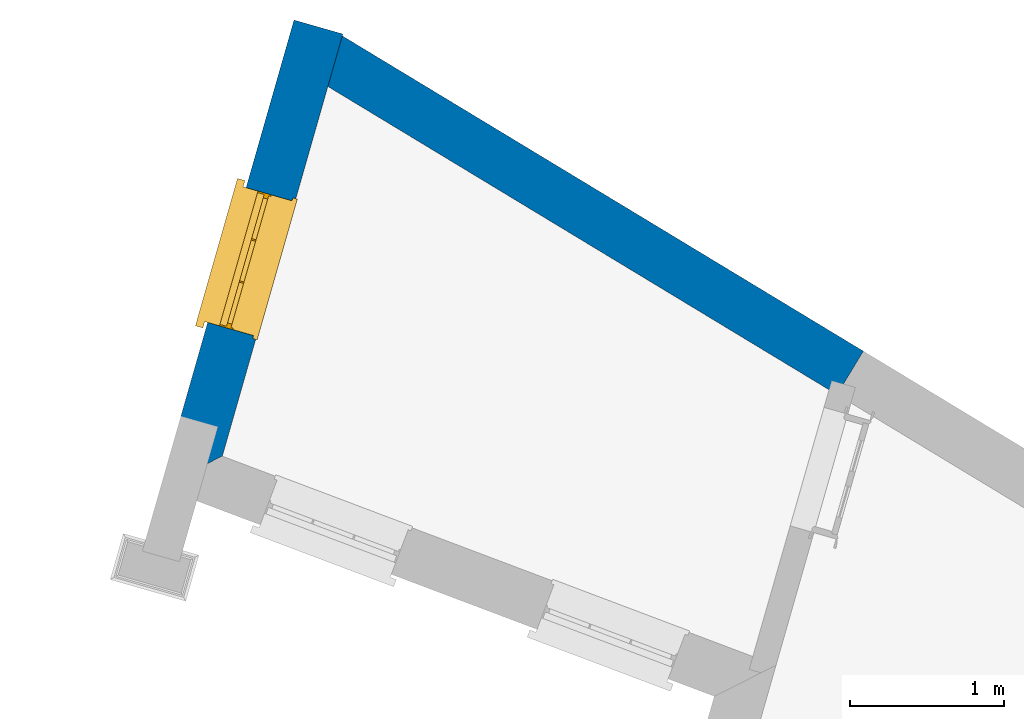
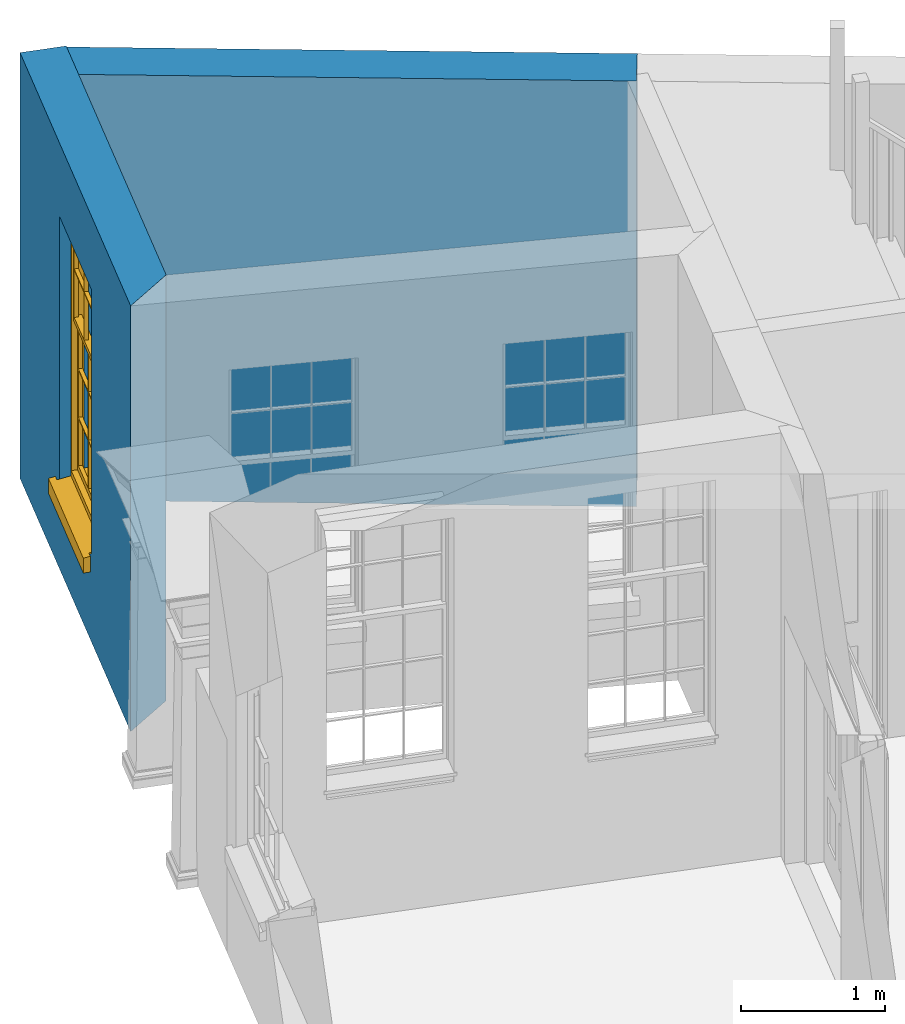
# One storey, part 6 of 6: 2 walls, 1 window, 1 opening.
"""IFC4 building model written with IfcOpenShell, lengths in metres."""

from ifc_helpers import new_model, si_unit, frame, origin, origin_with_axes, place, context, subcontext, project, spatial, polyline, outline, extrude, faceted_brep, source, transform, mapped, material, layer, layer_set, layer_usage, type_object, type_shapes, element, fill, save


model = new_model("IFC4")

# Units and contexts
model_context = context("Model", 3, world=origin_with_axes())
body_context = subcontext(model_context, "Body", "Model", "MODEL_VIEW")
ifc_project = project(units=[si_unit("PLANEANGLEUNIT", "RADIAN"), si_unit("MASSUNIT", "GRAM", prefix="KILO"), si_unit("FORCEUNIT", "NEWTON", prefix="KILO"), si_unit("LENGTHUNIT", "METRE"), si_unit("AREAUNIT", "SQUARE_METRE"), si_unit("VOLUMEUNIT", "CUBIC_METRE")], contexts=[model_context, model_context])

# Sites, building, storey
site_1_placement = place(None, origin_with_axes())
site_1 = spatial("IfcSite", under=ifc_project, at=site_1_placement, Name="Tamar")
site_2_placement = place(site_1_placement, origin_with_axes())
site_2 = spatial("IfcSite", under=site_1, at=site_2_placement, Name="Site plot-19", CompositionType="ELEMENT")
building_placement = place(None, origin_with_axes())
building = spatial("IfcBuilding", under=site_2, at=building_placement, Name="Building plot-19", CompositionType="ELEMENT")
storey_placement = place(None, frame((0.0, 0.0, 26.8), z_axis=(0.0, 0.0, 1.0), x_axis=(1.0, 0.0, 0.0)))
storey = spatial("IfcBuildingStorey", under=building, at=storey_placement, Name="plot-19 0", CompositionType="ELEMENT", Elevation=26.8)

# Wall, opening, window
ifc_material_1 = material(Name="Masonry")
ifc_layer_1 = layer(ifc_material_1, 0.33, ventilated=False)
ifc_layer_set_1 = layer_set([ifc_layer_1], Name="exterior_0.08_0.25")
ifc_layer_usage_1 = layer_usage(ifc_layer_set_1, "AXIS2", "POSITIVE", -0.25)
wall_type_1 = type_object("IfcWallType", Name="exterior_0.08_0.25", PredefinedType="SOLIDWALL", material=ifc_layer_set_1)
wall_1_placement = place(storey_placement, frame((277.859330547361, 304.293593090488, 0.0), z_axis=(0.0, 0.0, 1.0), x_axis=(-0.274568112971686, -0.961567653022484, 0.0)))
wall_1 = element("IfcWall", 1, at=wall_1_placement, inside=storey, type_object=wall_type_1, material=ifc_layer_usage_1, Name="exterior", context=body_context, shape_type="SweptSolid", body=[
    extrude(outline(polyline([(-0.250000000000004, 0.0800000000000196), (-0.250000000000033, -0.249999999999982), (2.90406543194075, -0.250000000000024), (2.60035790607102, 0.080000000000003), (-0.250000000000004, 0.0800000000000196)])), origin_with_axes(), (0.0, 0.0, 1.0), 3.6),
])
opening_placement = place(wall_1_placement, frame((0.8819919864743, 0.0, 0.75)))
opening = element("IfcOpeningElement", 2, at=opening_placement, cuts=wall_1, Name="My Opening", ObjectType="Opening", context=body_context, shape_type="SweptSolid", body=[
    extrude(outline(polyline([(0.0, -0.269999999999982), (0.91000000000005, -0.269999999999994), (0.910000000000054, 1.09999999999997), (3.66373598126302e-15, 1.09999999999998), (0.0, -0.269999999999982)])), origin_with_axes(), (0.0, 0.0, 1.0), 2.23),
])
window_type = type_object("IfcWindowType", Name="sash_big_taller", PartitioningType="DOUBLE_PANEL_HORIZONTAL", PredefinedType="NOTDEFINED")
shared_shape = source(origin(), body_context, "Body", "Brep", [
    faceted_brep([(0.033125, 0.145, 1.385209), (0.01, 0.145, 1.385209), (0.033125, 0.145, 1.786042), (0.876875, 0.145, 1.385209), (0.876875, 0.145, 1.786042), (0.9, 0.145, 1.385209), (0.876875, 0.145, 1.796042), (0.876875, 0.145, 2.196875), (0.9, 0.145, 2.22), (0.033125, 0.145, 2.196875), (0.033125, 0.145, 1.796042), (0.01, 0.145, 2.22), (0.876875, 0.115, 1.786042), (0.876875, 0.115, 1.385209), (0.9, 0.115, 1.347084), (0.033125, 0.115, 2.196875), (0.01, 0.115, 2.22), (0.033125, 0.115, 1.796042), (0.01, 0.115, 1.347084), (0.033125, 0.115, 1.385209), (0.033125, 0.115, 1.786042), (0.876875, 0.115, 2.196875), (0.876875, 0.115, 1.796042), (0.9, 0.115, 2.22), (0.033125, 0.145, 1.347084), (0.01, 0.145, 1.347084), (0.033125, 0.145, 0.94625), (0.876875, 0.145, 1.347084), (0.876875, 0.145, 0.94625), (0.9, 0.145, 1.347084), (0.876875, 0.145, 0.52625), (0.876875, 0.145, 0.125417), (0.9, 0.145, 0.077167), (0.033125, 0.145, 0.125417), (0.033125, 0.145, 0.52625), (0.01, 0.145, 0.077167), (-0.0425, 0.0, 0.01), (-0.0425, -0.05, 0.001667), (0.0, 0.0, 0.01), (0.9525, 0.0, 0.01), (0.91, 0.0, 0.01), (0.9525, -0.05, 0.001667), (-0.02, 0.33, 0.077167), (0.0, 0.33, 0.077167), (-0.02, 0.36, 0.077167), (0.0, 0.19, 0.077167), (0.01, 0.19, 0.077167), (0.91, 0.19, 0.077167), (0.91, 0.33, 0.077167), (0.9, 0.19, 0.077167), (0.93, 0.33, 0.077167), (0.93, 0.36, 0.077167), (0.01, 0.175, 1.385209), (0.9, 0.175, 1.385209), (0.876875, 0.175, 0.125417), (0.876875, 0.175, 0.52625), (0.9, 0.175, 0.077167), (0.876875, 0.175, 0.94625), (0.876875, 0.175, 1.347084), (0.033125, 0.175, 0.125417), (0.01, 0.175, 0.077167), (0.033125, 0.175, 0.52625), (0.033125, 0.175, 1.347084), (0.033125, 0.175, 0.94625), (-0.02, 0.33, 0.052167), (-0.02, 0.36, 0.052167), (0.93, 0.36, 0.052167), (0.93, 0.33, 0.052167), (0.91, 0.33, 0.052167), (0.0, 0.33, 0.052167), (0.91, 0.1, 0.026667), (0.0, 0.1, 0.026667), (-0.0425, -0.05, -0.123333), (0.9525, -0.05, -0.123333), (-0.0425, 0.0, -0.123333), (0.9525, 0.0, -0.123333), (0.01, 0.19, 2.22), (0.9, 0.19, 2.22), (0.0, 0.19, 2.23), (0.91, 0.19, 2.23), (0.01, 0.1, 0.077167), (0.9, 0.1, 0.077167), (0.592292, 0.145, 0.125417), (0.592292, 0.175, 0.125417), (0.317708, 0.175, 0.125417), (0.317708, 0.145, 0.125417), (0.592292, 0.145, 0.53625), (0.317708, 0.145, 0.53625), (0.317708, 0.145, 0.52625), (0.592292, 0.145, 0.52625), (0.592292, 0.175, 0.53625), (0.317708, 0.175, 0.53625), (0.592292, 0.115, 1.796042), (0.592292, 0.145, 1.796042), (0.317708, 0.145, 1.796042), (0.317708, 0.115, 1.796042), (0.317708, 0.115, 1.786042), (0.592292, 0.115, 1.786042), (0.317708, 0.145, 1.786042), (0.592292, 0.145, 1.786042), (0.602292, 0.115, 1.786042), (0.592292, 0.115, 1.385209), (0.602292, 0.115, 1.385209), (0.602292, 0.145, 1.385209), (0.592292, 0.145, 1.385209), (0.602292, 0.145, 1.786042), (0.876875, 0.145, 0.53625), (0.876875, 0.175, 0.53625), (0.602292, 0.175, 0.53625), (0.602292, 0.145, 0.53625), (0.317708, 0.175, 0.52625), (0.307708, 0.175, 0.125417), (0.307708, 0.175, 0.52625), (0.602292, 0.175, 0.52625), (0.602292, 0.175, 0.125417), (0.592292, 0.175, 0.52625), (0.307708, 0.175, 0.53625), (0.033125, 0.175, 0.53625), (0.317708, 0.175, 1.347084), (0.317708, 0.175, 0.94625), (0.307708, 0.175, 0.94625), (0.307708, 0.175, 1.347084), (0.602292, 0.175, 1.347084), (0.602292, 0.175, 0.94625), (0.592292, 0.175, 0.94625), (0.592292, 0.175, 1.347084), (0.307708, 0.145, 0.52625), (0.307708, 0.145, 0.125417), (0.307708, 0.145, 0.53625), (0.033125, 0.145, 0.53625), (0.307708, 0.145, 1.347084), (0.307708, 0.145, 0.94625), (0.592292, 0.145, 1.347084), (0.592292, 0.145, 0.94625), (0.317708, 0.145, 0.94625), (0.317708, 0.145, 1.347084), (0.602292, 0.145, 0.94625), (0.602292, 0.145, 1.347084), (0.602292, 0.145, 0.52625), (0.602292, 0.145, 0.125417), (0.307708, 0.115, 1.796042), (0.307708, 0.115, 1.786042), (0.307708, 0.115, 1.385209), (0.317708, 0.115, 1.385209), (0.317708, 0.115, 2.196875), (0.307708, 0.115, 2.196875), (0.602292, 0.115, 2.196875), (0.592292, 0.115, 2.196875), (0.602292, 0.115, 1.796042), (0.602292, 0.145, 1.796042), (0.307708, 0.145, 1.796042), (0.307708, 0.145, 2.196875), (0.317708, 0.145, 2.196875), (0.592292, 0.145, 2.196875), (0.602292, 0.145, 2.196875), (0.307708, 0.145, 1.786042), (0.317708, 0.145, 1.385209), (0.307708, 0.145, 1.385209), (0.876875, 0.175, 0.93625), (0.033125, 0.175, 0.93625), (0.033125, 0.145, 0.93625), (0.876875, 0.145, 0.93625), (0.91, 0.1, 2.23), (0.9, 0.1, 2.22), (0.01, 0.1, 2.22), (0.0, 0.1, 2.23), (0.91, 0.0, 0.0), (0.0, 0.0, 0.0), (0.91, 0.33, 0.0), (0.0, 0.33, 0.0), (0.317708, 0.145, 0.93625), (0.592292, 0.145, 0.93625), (0.317708, 0.175, 0.93625), (0.307708, 0.175, 0.93625), (0.602292, 0.175, 0.93625), (0.592292, 0.175, 0.93625), (0.307708, 0.145, 0.93625), (0.602292, 0.145, 0.93625)], [[[0, 1, 2]], [[3, 4, 5]], [[6, 7, 8]], [[9, 10, 11]], [[12, 13, 14]], [[15, 16, 17]], [[18, 19, 20]], [[21, 22, 23]], [[24, 25, 26]], [[27, 28, 29]], [[30, 31, 32]], [[33, 34, 35]], [[14, 27, 29]], [[25, 24, 18]], [[36, 37, 38]], [[39, 40, 41]], [[42, 43, 44]], [[45, 46, 43]], [[47, 48, 49]], [[50, 51, 48]], [[1, 0, 52]], [[5, 53, 3]], [[54, 55, 56]], [[57, 58, 53]], [[59, 60, 61]], [[62, 63, 52]], [[48, 43, 46, 49]], [[51, 44, 43, 48]], [[64, 42, 44, 65]], [[65, 44, 51, 66]], [[66, 51, 50, 67]], [[65, 66, 68, 69]], [[60, 56, 49, 46]], [[70, 71, 38, 40]], [[37, 41, 40, 38]], [[37, 72, 73, 41]], [[74, 75, 73, 72]], [[8, 11, 76, 77]], [[76, 78, 79, 77]], [[32, 35, 80, 81]], [[81, 80, 71, 70]], [[82, 83, 84, 85]], [[86, 87, 88, 89]], [[86, 90, 91, 87]], [[92, 93, 94, 95]], [[92, 95, 96, 97]], [[96, 98, 99, 97]], [[100, 97, 101, 102]], [[103, 104, 99, 105]], [[97, 99, 104, 101]], [[102, 103, 105, 100]], [[106, 107, 108, 109]], [[110, 84, 111, 112]], [[113, 114, 83, 115]], [[116, 112, 61, 117]], [[90, 115, 110, 91]], [[118, 119, 120, 121]], [[122, 123, 124, 125]], [[113, 108, 107, 55]], [[126, 112, 111, 127]], [[34, 61, 112, 126]], [[89, 115, 83, 82]], [[88, 110, 115, 89]], [[85, 84, 110, 88]], [[128, 116, 117, 129]], [[130, 121, 120, 131]], [[132, 125, 124, 133]], [[134, 119, 118, 135]], [[136, 123, 122, 137]], [[138, 113, 55, 30]], [[139, 114, 113, 138]], [[138, 30, 106, 109]], [[88, 126, 127, 85]], [[138, 89, 82, 139]], [[137, 132, 133, 136]], [[128, 129, 34, 126]], [[135, 130, 131, 134]], [[140, 17, 20, 141]], [[96, 141, 142, 143]], [[144, 145, 140, 95]], [[146, 147, 92, 148]], [[100, 12, 22, 148]], [[149, 6, 4, 105]], [[94, 150, 151, 152]], [[149, 93, 153, 154]], [[99, 98, 94, 93]], [[155, 2, 10, 150]], [[156, 157, 155, 98]], [[141, 155, 157, 142]], [[20, 2, 155, 141]], [[143, 156, 98, 96]], [[140, 150, 10, 17]], [[145, 151, 150, 140]], [[147, 153, 93, 92]], [[95, 94, 152, 144]], [[22, 6, 149, 148]], [[148, 149, 154, 146]], [[100, 105, 4, 12]], [[109, 86, 89, 138]], [[108, 113, 115, 90]], [[91, 110, 112, 116]], [[87, 128, 126, 88]], [[97, 100, 148, 92]], [[141, 96, 95, 140]], [[98, 155, 150, 94]], [[105, 99, 93, 149]], [[143, 101, 104, 156]], [[135, 118, 125, 132]], [[144, 152, 153, 147]], [[127, 111, 59, 33]], [[15, 9, 151, 145]], [[146, 154, 7, 21]], [[31, 54, 114, 139]], [[36, 74, 72, 37]], [[39, 41, 73, 75]], [[18, 14, 101, 143]], [[23, 16, 144, 147]], [[83, 56, 60, 84]], [[52, 53, 125, 118]], [[53, 52, 156, 104]], [[11, 8, 153, 152]], [[14, 18, 135, 132]], [[2, 1, 11, 10]], [[8, 5, 4, 6]], [[57, 53, 56, 158]], [[60, 52, 63, 159]], [[26, 25, 35, 160]], [[32, 29, 28, 161]], [[14, 23, 22, 12]], [[18, 20, 17, 16]], [[19, 0, 2, 20]], [[17, 10, 9, 15]], [[12, 4, 3, 13]], [[21, 7, 6, 22]], [[27, 58, 57, 28]], [[30, 55, 54, 31]], [[33, 59, 61, 34]], [[26, 63, 62, 24]], [[5, 8, 77, 53]], [[76, 11, 1, 52]], [[46, 45, 78, 76]], [[49, 77, 79, 47]], [[70, 162, 163, 81]], [[71, 80, 164, 165]], [[19, 142, 157, 0]], [[102, 13, 3, 103]], [[121, 130, 24, 62]], [[29, 32, 81, 14]], [[80, 35, 25, 18]], [[60, 46, 76, 52]], [[77, 49, 56, 53]], [[23, 14, 81, 163]], [[16, 164, 80, 18]], [[35, 85, 127]], [[127, 33, 35]], [[139, 82, 32]], [[32, 31, 139]], [[32, 82, 85, 35]], [[102, 101, 14]], [[14, 13, 102]], [[18, 143, 142]], [[142, 19, 18]], [[146, 21, 23]], [[23, 147, 146]], [[16, 15, 145]], [[145, 144, 16]], [[11, 152, 151]], [[151, 9, 11]], [[154, 153, 8]], [[8, 7, 154]], [[23, 163, 164, 16]], [[162, 165, 164, 163]], [[52, 118, 121]], [[121, 62, 52]], [[125, 53, 122]], [[58, 122, 53]], [[27, 137, 122, 58]], [[56, 83, 114]], [[114, 54, 56]], [[111, 84, 60]], [[60, 59, 111]], [[137, 27, 14]], [[14, 132, 137]], [[130, 135, 18]], [[18, 24, 130]], [[157, 156, 52]], [[52, 0, 157]], [[103, 3, 53]], [[53, 104, 103]], [[79, 78, 165, 162]], [[78, 45, 71, 165]], [[162, 70, 47, 79]], [[166, 75, 74, 167]], [[68, 66, 67]], [[48, 68, 67, 50]], [[69, 64, 65]], [[42, 64, 69, 43]], [[69, 68, 168, 169]], [[70, 68, 48, 47]], [[166, 168, 68, 70]], [[43, 69, 71, 45]], [[69, 169, 167, 71]], [[168, 166, 167, 169]], [[38, 167, 74, 36]], [[71, 167, 38]], [[39, 75, 166, 40]], [[40, 166, 70]], [[133, 134, 170, 171]], [[133, 124, 119, 134]], [[28, 57, 123, 136]], [[172, 91, 116, 173]], [[174, 108, 90, 175]], [[120, 173, 159, 63]], [[124, 175, 172, 119]], [[174, 123, 57, 158]], [[176, 173, 116, 128]], [[160, 159, 173, 176]], [[171, 175, 90, 86]], [[170, 172, 175, 171]], [[87, 91, 172, 170]], [[131, 120, 63, 26]], [[177, 174, 158, 161]], [[109, 108, 174, 177]], [[177, 161, 28, 136]], [[170, 176, 128, 87]], [[177, 171, 86, 109]], [[131, 26, 160, 176]], [[136, 133, 171, 177]], [[123, 174, 175, 124]], [[119, 172, 173, 120]], [[134, 131, 176, 170]], [[129, 117, 159, 160]], [[161, 158, 107, 106]], [[35, 34, 129]], [[35, 129, 160]], [[32, 106, 30]], [[32, 161, 106]], [[56, 55, 107]], [[56, 107, 158]], [[60, 117, 61]], [[60, 159, 117]]]),
])
type_shapes(window_type, [shared_shape])
window_placement = place(storey_placement, frame((277.357540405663, 303.519631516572, 0.75), z_axis=(0.0, 0.0, 1.0), x_axis=(-0.24985698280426, -0.875026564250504, 0.0)))
window = element("IfcWindow", 3, at=window_placement, inside=storey, type_object=window_type, Name="toilet street window", OverallHeight=2.23, OverallWidth=0.91, context=body_context, shape_type="MappedRepresentation", body=[
    mapped(shared_shape, transform((0.0, 0.0, 0.0), scale=1.0)),
])
fill(opening, window)

# Wall
ifc_material_2 = material(Name="Masonry")
ifc_layer_2 = layer(ifc_material_2, 0.33, ventilated=False)
ifc_layer_set_2 = layer_set([ifc_layer_2], Name="party_0.08_0.25")
ifc_layer_usage_2 = layer_usage(ifc_layer_set_2, "AXIS2", "POSITIVE", -0.25)
wall_type_2 = type_object("IfcWallType", Name="party_0.08_0.25", PredefinedType="SOLIDWALL", material=ifc_layer_set_2)
wall_2_placement = place(storey_placement, frame((281.254501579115, 302.239224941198, 0.0), z_axis=(0.0, 0.0, 1.0), x_axis=(-0.855567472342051, 0.517691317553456, 0.0)))
element("IfcWall", 4, at=wall_2_placement, inside=storey, type_object=wall_type_2, material=ifc_layer_usage_2, Name="party", context=body_context, shape_type="SweptSolid", body=[
    extrude(outline(polyline([(-5.71497043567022e-15, 0.0799999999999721), (-9.92118798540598e-15, -0.250000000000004), (3.96832645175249, -0.250000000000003), (3.9683264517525, 0.0799999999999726), (-5.71497043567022e-15, 0.0799999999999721)])), origin_with_axes(), (0.0, 0.0, 1.0), 3.6),
])

save(model, "model.ifc")
